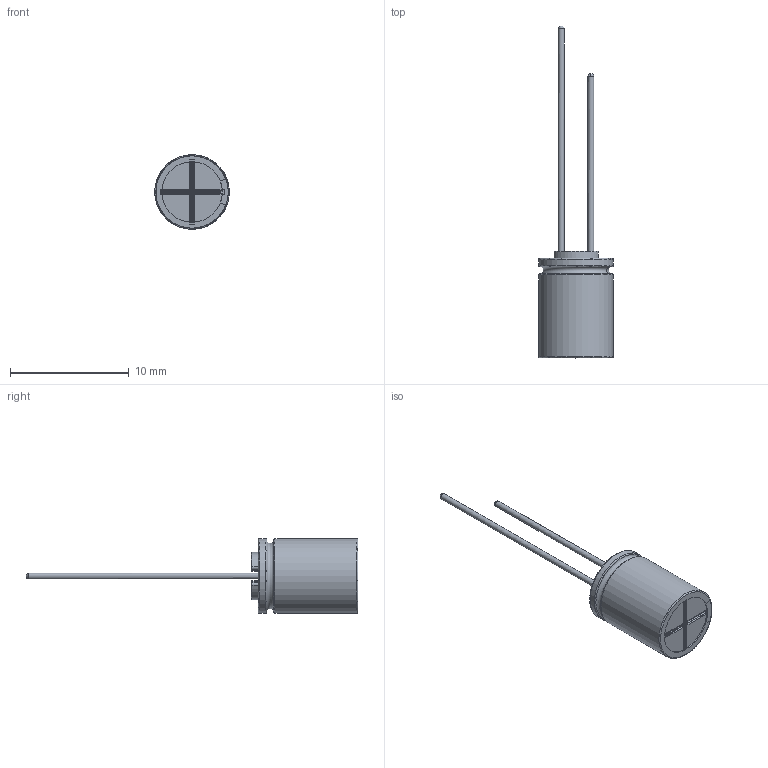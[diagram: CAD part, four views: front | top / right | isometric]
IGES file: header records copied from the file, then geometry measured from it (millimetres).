
Start section: JAMA-IS VERSION  1.0
Bounding box: 6.29 x 28 x 6.3 mm (x, y, z)
Surface area: 674 mm2 (no closed solid volume)
Topology: 0 solids, 0 shells, 120 faces, 1287 edges, 1276 vertices
Faces by surface type: bspline 120
